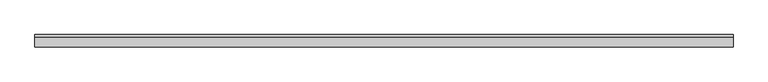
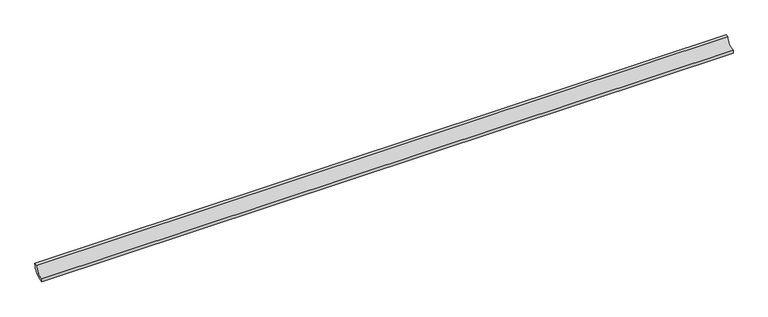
"""IFC4 building model written with IfcOpenShell, lengths in millimetres: proxy geometry, EXAGRES - Piscina Mediacaña1 : Publica_Azul_24.5x4cm."""

from ifc_helpers import new_model, si_unit, point, frame, frame_2d, origin, place, context, project, spatial, polyline, circle_curve, trimmed, segment, composite_curve, outline, extrude, source, transform, mapped, element, save


def generic_models_75372383(model_context):
    return source(origin(), model_context, "Body", "SweptSolid", [
        extrude(outline(composite_curve([segment(trimmed(circle_curve(frame_2d((-26.0, 26.0)), 26.0), [point((-26.0, 0.0))], [point((0.0, 26.0))], True, "CARTESIAN"), True, "CONTINUOUS"), segment(polyline([(0.0, 26.0), (8.5, 26.0)]), True, "CONTINUOUS"), segment(trimmed(circle_curve(frame_2d((-26.0, 26.0)), 34.5), [point((8.5, 26.0))], [point((-26.0, -8.5))], False, "CARTESIAN"), True, "CONTINUOUS"), segment(polyline([(-26.0, -8.5), (-26.0, 0.0)]), True, "CONTINUOUS")], self_intersect=False)), frame((0.0, 0.0, 0.0), z_axis=(1.0, 0.0, 0.0), x_axis=(0.0, 1.0, 0.0)), (0.0, 0.0, 1.0), 1974.0),
    ])


if __name__ == "__main__":
    model = new_model("IFC4")
    model_context = context("Model", 3, world=origin())
    ifc_project = project(units=[si_unit("LENGTHUNIT", "METRE", prefix="MILLI")], contexts=[model_context])
    site = spatial("IfcSite", under=ifc_project)
    building = spatial("IfcBuilding", under=site)
    placement = place(None, origin())
    generic_models_shape = generic_models_75372383(model_context)
    element("IfcBuildingElementProxy", 1, Name="EXAGRES - Piscina Mediacaña1 : Publica_Azul_24.5x4cm", ObjectType="EXAGRES - Piscina Mediacaña1 : Publica_Azul_24.5x4cm", at=placement, inside=building, context=model_context, shape_type="MappedRepresentation", body=[
        mapped(generic_models_shape, transform((0.0, 0.0, 0.0), x_axis=(1.0, 0.0, 0.0), y_axis=(0.0, 1.0, 0.0), z_axis=(0.0, 0.0, 1.0))),
    ])
    save(model, "model.ifc")
